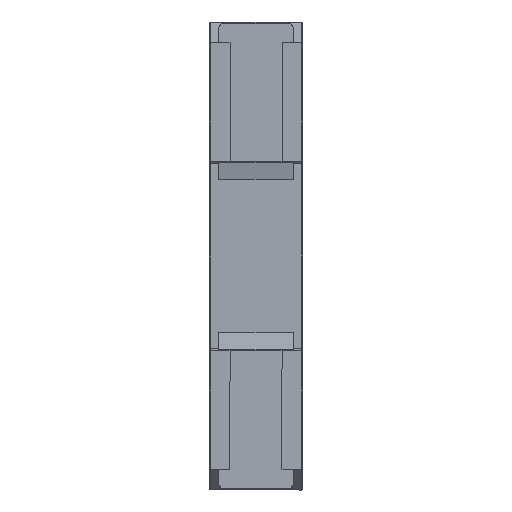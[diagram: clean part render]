
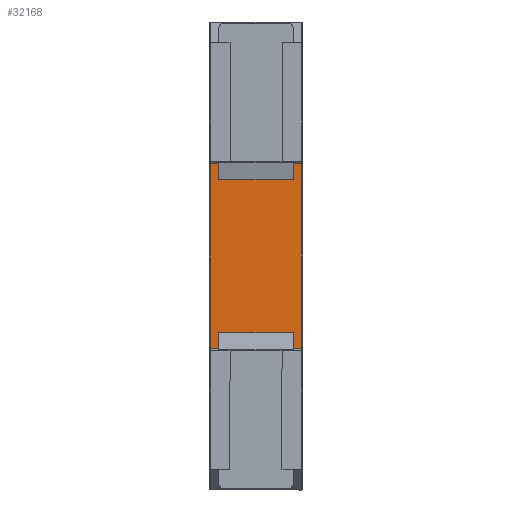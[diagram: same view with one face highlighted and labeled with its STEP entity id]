
A CAD part, left-side view. The second image highlights one B-rep face of the part: STEP entity #32168.
In plain terms, the highlighted planar face has unit normal (-1, 0, 0).
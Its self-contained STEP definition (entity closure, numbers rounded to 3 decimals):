
#602 = VERTEX_POINT ( 'NONE', #51168 ) ;
#1234 = DIRECTION ( 'NONE',  ( 0., 0., -1. ) ) ;
#1833 = EDGE_CURVE ( 'NONE', #41342, #51652, #47268, .T. ) ;
#2843 = CARTESIAN_POINT ( 'NONE',  ( 4., 1.55, 23.5 ) ) ;
#3651 = VECTOR ( 'NONE', #49440, 1000. ) ;
#3921 = DIRECTION ( 'NONE',  ( 0., -1., 0. ) ) ;
#4300 = CARTESIAN_POINT ( 'NONE',  ( 4., 1.55, 85.75 ) ) ;
#4460 = VERTEX_POINT ( 'NONE', #10858 ) ;
#4559 = VERTEX_POINT ( 'NONE', #2843 ) ;
#5534 = VERTEX_POINT ( 'NONE', #18669 ) ;
#5654 = LINE ( 'NONE', #30835, #40062 ) ;
#6956 = DIRECTION ( 'NONE',  ( 0., 0., -1. ) ) ;
#9719 = CARTESIAN_POINT ( 'NONE',  ( 4., 1.55, 23.25 ) ) ;
#10858 = CARTESIAN_POINT ( 'NONE',  ( 4., 15.85, 58.5 ) ) ;
#11221 = EDGE_CURVE ( 'NONE', #41342, #602, #52298, .T. ) ;
#11239 = VECTOR ( 'NONE', #43009, 1000. ) ;
#11715 = ORIENTED_EDGE ( 'NONE', *, *, #17739, .T. ) ;
#11951 = CARTESIAN_POINT ( 'NONE',  ( 4., 17.4, 41. ) ) ;
#12031 = VERTEX_POINT ( 'NONE', #51617 ) ;
#12254 = LINE ( 'NONE', #28584, #43097 ) ;
#12668 = EDGE_CURVE ( 'NONE', #4559, #19036, #12254, .T. ) ;
#12762 = ORIENTED_EDGE ( 'NONE', *, *, #15637, .F. ) ;
#12954 = ORIENTED_EDGE ( 'NONE', *, *, #39384, .F. ) ;
#14404 = DIRECTION ( 'NONE',  ( 0., -1., 0. ) ) ;
#14837 = VECTOR ( 'NONE', #6956, 1000. ) ;
#15118 = EDGE_CURVE ( 'NONE', #19036, #38312, #25099, .T. ) ;
#15280 = LINE ( 'NONE', #11951, #46759 ) ;
#15319 = LINE ( 'NONE', #49859, #25033 ) ;
#15557 = VERTEX_POINT ( 'NONE', #47115 ) ;
#15637 = EDGE_CURVE ( 'NONE', #43383, #4460, #5654, .T. ) ;
#17739 = EDGE_CURVE ( 'NONE', #12031, #602, #52290, .T. ) ;
#18669 = CARTESIAN_POINT ( 'NONE',  ( 4., 17.4, 23.25 ) ) ;
#19036 = VERTEX_POINT ( 'NONE', #36443 ) ;
#19641 = CARTESIAN_POINT ( 'NONE',  ( 4., 0., 23.25 ) ) ;
#20449 = CARTESIAN_POINT ( 'NONE',  ( 4., 17.6, 58.75 ) ) ;
#20719 = LINE ( 'NONE', #20449, #23688 ) ;
#21246 = FACE_OUTER_BOUND ( 'NONE', #30288, .T. ) ;
#21574 = CARTESIAN_POINT ( 'NONE',  ( 4., 17.6, 58.75 ) ) ;
#21858 = DIRECTION ( 'NONE',  ( 0., 1., 0. ) ) ;
#22603 = EDGE_CURVE ( 'NONE', #15557, #43383, #20719, .T. ) ;
#23688 = VECTOR ( 'NONE', #42284, 1000. ) ;
#23791 = ORIENTED_EDGE ( 'NONE', *, *, #30172, .T. ) ;
#23854 = CARTESIAN_POINT ( 'NONE',  ( 4., 1.55, 23.25 ) ) ;
#25033 = VECTOR ( 'NONE', #32189, 1000. ) ;
#25099 = LINE ( 'NONE', #32581, #3651 ) ;
#27566 = ORIENTED_EDGE ( 'NONE', *, *, #12668, .F. ) ;
#27750 = ORIENTED_EDGE ( 'NONE', *, *, #43544, .F. ) ;
#28584 = CARTESIAN_POINT ( 'NONE',  ( 4., 17.6, 23.5 ) ) ;
#28829 = DIRECTION ( 'NONE',  ( 0., 0., 1. ) ) ;
#29141 = DIRECTION ( 'NONE',  ( 0., 1., 0. ) ) ;
#29284 = ORIENTED_EDGE ( 'NONE', *, *, #15118, .F. ) ;
#30172 = EDGE_CURVE ( 'NONE', #4559, #12031, #15319, .T. ) ;
#30288 = EDGE_LOOP ( 'NONE', ( #29284, #27566, #23791, #11715, #51182, #52671, #52201, #12954, #12762, #37848, #27750, #40566 ) ) ;
#30835 = CARTESIAN_POINT ( 'NONE',  ( 4., 15.85, 85.75 ) ) ;
#32168 = ADVANCED_FACE ( 'NONE', ( #21246 ), #49751, .F. ) ;
#32189 = DIRECTION ( 'NONE',  ( 0., 0., -1. ) ) ;
#32581 = CARTESIAN_POINT ( 'NONE',  ( 4., 15.85, 23.25 ) ) ;
#32631 = CARTESIAN_POINT ( 'NONE',  ( 4., 15.85, 23.25 ) ) ;
#32968 = CARTESIAN_POINT ( 'NONE',  ( 4., 17.6, 58.5 ) ) ;
#33329 = CARTESIAN_POINT ( 'NONE',  ( 4., 1.55, 58.75 ) ) ;
#33929 = AXIS2_PLACEMENT_3D ( 'NONE', #45867, #46125, #37302 ) ;
#34447 = CARTESIAN_POINT ( 'NONE',  ( 4., 1.55, 58.5 ) ) ;
#35595 = VECTOR ( 'NONE', #14404, 1000. ) ;
#36443 = CARTESIAN_POINT ( 'NONE',  ( 4., 15.85, 23.5 ) ) ;
#36828 = DIRECTION ( 'NONE',  ( 0., -1., 0. ) ) ;
#37057 = EDGE_CURVE ( 'NONE', #5534, #38312, #49820, .T. ) ;
#37302 = DIRECTION ( 'NONE',  ( 0., -1., 0. ) ) ;
#37848 = ORIENTED_EDGE ( 'NONE', *, *, #22603, .F. ) ;
#37935 = LINE ( 'NONE', #32968, #42954 ) ;
#37944 = VERTEX_POINT ( 'NONE', #34447 ) ;
#38312 = VERTEX_POINT ( 'NONE', #32631 ) ;
#39384 = EDGE_CURVE ( 'NONE', #4460, #37944, #37935, .T. ) ;
#40062 = VECTOR ( 'NONE', #1234, 1000. ) ;
#40220 = EDGE_CURVE ( 'NONE', #51652, #37944, #43274, .T. ) ;
#40566 = ORIENTED_EDGE ( 'NONE', *, *, #37057, .T. ) ;
#41342 = VERTEX_POINT ( 'NONE', #45061 ) ;
#42284 = DIRECTION ( 'NONE',  ( 0., -1., 0. ) ) ;
#42954 = VECTOR ( 'NONE', #3921, 1000. ) ;
#43009 = DIRECTION ( 'NONE',  ( 0., 0., -1. ) ) ;
#43097 = VECTOR ( 'NONE', #29141, 1000. ) ;
#43274 = LINE ( 'NONE', #4300, #11239 ) ;
#43383 = VERTEX_POINT ( 'NONE', #48179 ) ;
#43544 = EDGE_CURVE ( 'NONE', #5534, #15557, #15280, .T. ) ;
#44538 = VECTOR ( 'NONE', #36828, 1000. ) ;
#45061 = CARTESIAN_POINT ( 'NONE',  ( 4., 0., 58.75 ) ) ;
#45867 = CARTESIAN_POINT ( 'NONE',  ( 4., 17.6, 23.25 ) ) ;
#46125 = DIRECTION ( 'NONE',  ( 1., 0., 0. ) ) ;
#46759 = VECTOR ( 'NONE', #28829, 1000. ) ;
#47115 = CARTESIAN_POINT ( 'NONE',  ( 4., 17.4, 58.75 ) ) ;
#47268 = LINE ( 'NONE', #21574, #48393 ) ;
#48179 = CARTESIAN_POINT ( 'NONE',  ( 4., 15.85, 58.75 ) ) ;
#48393 = VECTOR ( 'NONE', #21858, 1000. ) ;
#49440 = DIRECTION ( 'NONE',  ( 0., 0., -1. ) ) ;
#49751 = PLANE ( 'NONE',  #33929 ) ;
#49820 = LINE ( 'NONE', #23854, #44538 ) ;
#49859 = CARTESIAN_POINT ( 'NONE',  ( 4., 1.55, -3.75 ) ) ;
#51168 = CARTESIAN_POINT ( 'NONE',  ( 4., 0., 23.25 ) ) ;
#51182 = ORIENTED_EDGE ( 'NONE', *, *, #11221, .F. ) ;
#51617 = CARTESIAN_POINT ( 'NONE',  ( 4., 1.55, 23.25 ) ) ;
#51652 = VERTEX_POINT ( 'NONE', #33329 ) ;
#52201 = ORIENTED_EDGE ( 'NONE', *, *, #40220, .T. ) ;
#52290 = LINE ( 'NONE', #9719, #35595 ) ;
#52298 = LINE ( 'NONE', #19641, #14837 ) ;
#52671 = ORIENTED_EDGE ( 'NONE', *, *, #1833, .T. ) ;
